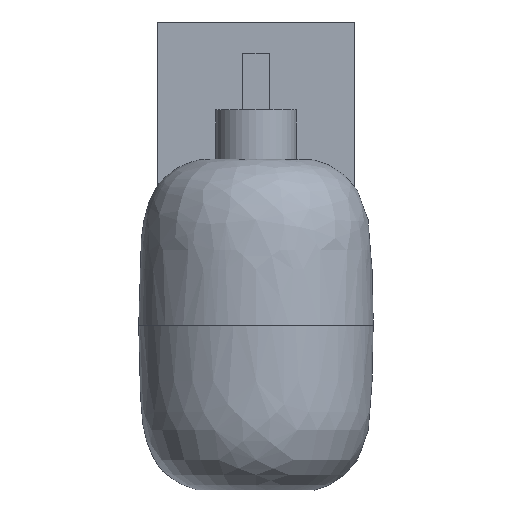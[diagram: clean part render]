
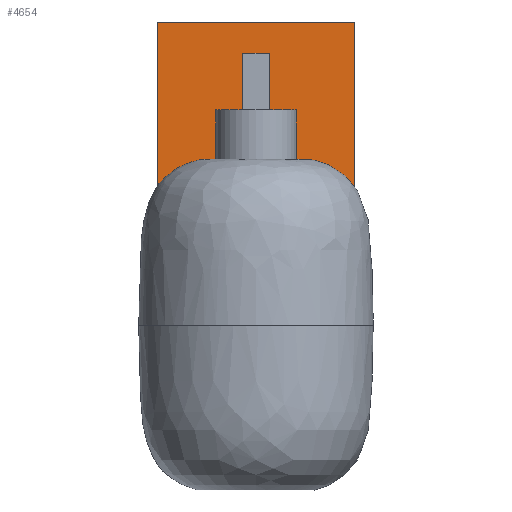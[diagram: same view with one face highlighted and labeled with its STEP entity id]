
A CAD part, front view. The second image highlights one B-rep face of the part: STEP entity #4654.
In plain terms, the highlighted planar face has unit normal (0, -1, 0).
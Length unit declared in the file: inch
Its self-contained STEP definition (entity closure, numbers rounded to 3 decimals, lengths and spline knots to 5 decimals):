
#530=FACE_BOUND('',#976,.T.);
#674=FACE_OUTER_BOUND('',#975,.T.);
#975=EDGE_LOOP('',(#3559,#3560,#3561,#3562));
#976=EDGE_LOOP('',(#3563,#3564,#3565,#3566));
#1319=LINE('',#10415,#1703);
#1321=LINE('',#10419,#1705);
#1322=LINE('',#10423,#1706);
#1323=LINE('',#10425,#1707);
#1324=LINE('',#10427,#1708);
#1325=LINE('',#10428,#1709);
#1326=LINE('',#10430,#1710);
#1327=LINE('',#10431,#1711);
#1703=VECTOR('',#5612,0.3937);
#1705=VECTOR('',#5616,0.3937);
#1706=VECTOR('',#5619,0.3937);
#1707=VECTOR('',#5620,0.3937);
#1708=VECTOR('',#5621,0.3937);
#1709=VECTOR('',#5622,0.3937);
#1710=VECTOR('',#5623,0.3937);
#1711=VECTOR('',#5624,0.3937);
#2128=VERTEX_POINT('',#10411);
#2129=VERTEX_POINT('',#10413);
#2130=VERTEX_POINT('',#10417);
#2131=VERTEX_POINT('',#10421);
#2132=VERTEX_POINT('',#10422);
#2133=VERTEX_POINT('',#10424);
#2134=VERTEX_POINT('',#10426);
#2135=VERTEX_POINT('',#10429);
#2651=EDGE_CURVE('',#2128,#2129,#1319,.T.);
#2653=EDGE_CURVE('',#2129,#2130,#1321,.T.);
#2654=EDGE_CURVE('',#2131,#2132,#1322,.T.);
#2655=EDGE_CURVE('',#2133,#2131,#1323,.T.);
#2656=EDGE_CURVE('',#2134,#2133,#1324,.T.);
#2657=EDGE_CURVE('',#2132,#2134,#1325,.T.);
#2658=EDGE_CURVE('',#2130,#2135,#1326,.T.);
#2659=EDGE_CURVE('',#2135,#2128,#1327,.T.);
#3559=ORIENTED_EDGE('',*,*,#2654,.F.);
#3560=ORIENTED_EDGE('',*,*,#2655,.F.);
#3561=ORIENTED_EDGE('',*,*,#2656,.F.);
#3562=ORIENTED_EDGE('',*,*,#2657,.F.);
#3563=ORIENTED_EDGE('',*,*,#2658,.T.);
#3564=ORIENTED_EDGE('',*,*,#2659,.T.);
#3565=ORIENTED_EDGE('',*,*,#2651,.T.);
#3566=ORIENTED_EDGE('',*,*,#2653,.T.);
#4465=PLANE('',#5041);
#4654=ADVANCED_FACE('',(#674,#530),#4465,.T.);
#5041=AXIS2_PLACEMENT_3D('',#10420,#5617,#5618);
#5612=DIRECTION('',(0.,0.,-1.));
#5616=DIRECTION('',(-1.,0.,0.));
#5617=DIRECTION('center_axis',(0.,-1.,0.));
#5618=DIRECTION('ref_axis',(0.,0.,-1.));
#5619=DIRECTION('',(0.,0.,1.));
#5620=DIRECTION('',(-1.,0.,0.));
#5621=DIRECTION('',(0.,0.,-1.));
#5622=DIRECTION('',(1.,0.,0.));
#5623=DIRECTION('',(0.,0.,1.));
#5624=DIRECTION('',(1.,0.,0.));
#10411=CARTESIAN_POINT('',(0.37487,3.83596,9.53472));
#10413=CARTESIAN_POINT('',(0.37487,3.83596,8.78472));
#10415=CARTESIAN_POINT('',(0.37487,3.83596,9.53472));
#10417=CARTESIAN_POINT('',(-0.37513,3.83596,8.78472));
#10419=CARTESIAN_POINT('',(0.37487,3.83596,8.78472));
#10420=CARTESIAN_POINT('Origin',(-2.75013,3.83596,10.41));
#10421=CARTESIAN_POINT('',(-2.75013,3.83596,-0.09));
#10422=CARTESIAN_POINT('',(-2.75013,3.83596,10.41));
#10423=CARTESIAN_POINT('',(-2.75013,3.83596,-0.09));
#10424=CARTESIAN_POINT('',(2.74987,3.83596,-0.09));
#10425=CARTESIAN_POINT('',(2.74987,3.83596,-0.09));
#10426=CARTESIAN_POINT('',(2.74987,3.83596,10.41));
#10427=CARTESIAN_POINT('',(2.74987,3.83596,10.41));
#10428=CARTESIAN_POINT('',(-2.75013,3.83596,10.41));
#10429=CARTESIAN_POINT('',(-0.37513,3.83596,9.53472));
#10430=CARTESIAN_POINT('',(-0.37513,3.83596,8.78472));
#10431=CARTESIAN_POINT('',(-0.37513,3.83596,9.53472));
